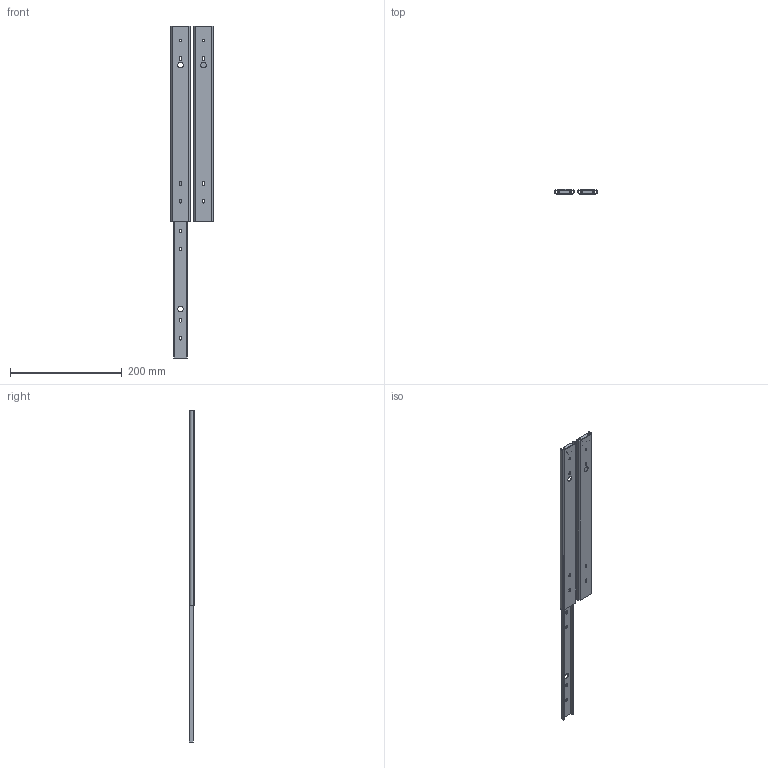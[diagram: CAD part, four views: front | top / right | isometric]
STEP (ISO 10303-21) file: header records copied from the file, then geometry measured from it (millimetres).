
FILE_DESCRIPTION((''),'2;1');
FILE_NAME('R:\Engineering\Distribution Website 3D\2028\DS2028-00\STEP\DS2028-0035 Open & Closed Internet Version (a).stp','2006-11-22T14:47:05',('mbignel'),(''),'Autodesk Inventor 11','Autodesk Inventor 11','');
FILE_SCHEMA(('AUTOMOTIVE_DESIGN { 1 0 10303 214 1 1 1 1 }'));
Length unit declared in the file: millimetre
Products named in the file (3): DS2028-0035 Open & Closed Internet Version (a); DS2028-0035 Closed Internet Version (a); DS2028-0035 Open Internet Version (a)
Assembly tree (2 placements, depth 2):
  DS2028-0035 Open & Closed Internet Version (a)
    DS2028-0035 Closed Internet Version (a)
    DS2028-0035 Open Internet Version (a)
Bounding box: 76.65 x 9.5 x 595 mm (x, y, z)
Volume: 79413.7 mm3; surface area: 117632.2 mm2
Topology: 4 solids, 4 shells, 148 faces, 408 edges, 272 vertices
Faces by surface type: plane 88, cylinder 60
Full cylindrical faces by diameter (mm): 4.3 x2, 4.9 x2, 10 x4
Entity records: 4862 total; most frequent: DIRECTION 826, CARTESIAN_POINT 825, ORIENTED_EDGE 800, EDGE_CURVE 400, VECTOR 280, LINE 280, AXIS2_PLACEMENT_3D 273, VERTEX_POINT 272
